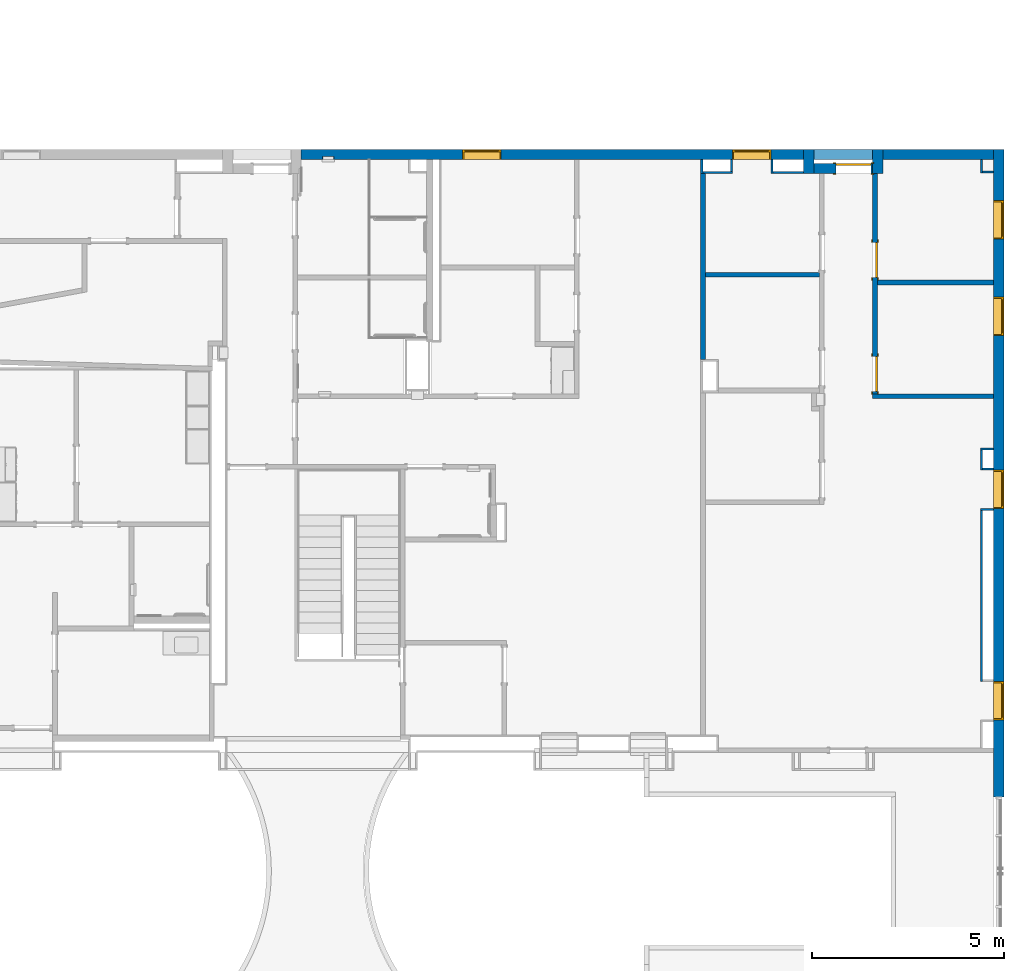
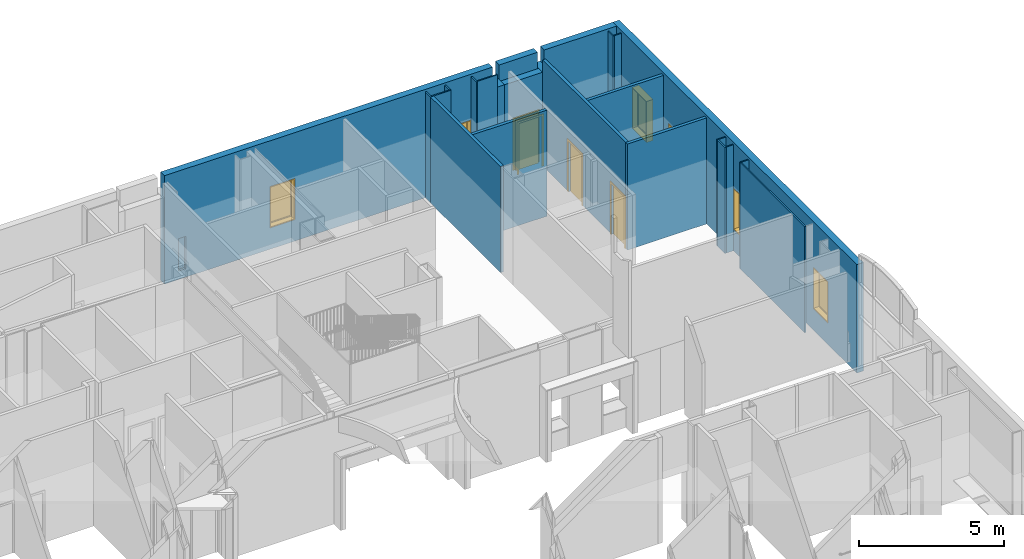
# One storey, part 41 of 82: 24 walls, 6 windows, 3 doors, 10 openings.
"""IFC2X3 building model written with IfcOpenShell, lengths in metres."""

from ifc_helpers import new_model, entity, si_unit, converted_unit, frame, frame_2d, origin, origin_2d_with_axis, place, context, project, spatial, polyline, rectangle, outline, extrude, source, transform, mapped, material, layer, layer_set, layer_usage, type_object, type_shapes, element, fill, save


model = new_model("IFC2X3")

# Units and contexts
model_context = context("Model", 3, precision=1e-09, world=origin())
plan_context = context("Plan", 3, precision=1e-09, world=origin())
ifc_project = project(units=[si_unit("LENGTHUNIT", "METRE"), si_unit("AREAUNIT", "SQUARE_METRE"), si_unit("VOLUMEUNIT", "CUBIC_METRE"), converted_unit("PLANEANGLEUNIT", "DEGREE", entity("IfcRatioMeasure", 0.01745329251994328), si_unit("PLANEANGLEUNIT", "RADIAN"), dimensions=[0, 0, 0, 0, 0, 0, 0]), si_unit("TIMEUNIT", "SECOND")], contexts=[model_context, plan_context])

# Site, building, storey
site_placement = place(None, origin())
site = spatial("IfcSite", under=ifc_project, at=site_placement, Name="Default", CompositionType="ELEMENT")
building_placement = place(site_placement, origin())
building = spatial("IfcBuilding", under=site, at=building_placement, CompositionType="ELEMENT")
storey_placement = place(building_placement, origin())
storey = spatial("IfcBuildingStorey", under=building, at=storey_placement, Name="First Floor", CompositionType="ELEMENT", Elevation=-3.531500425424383e-13)

# Wall, openings, windows
ifc_material_1 = material(Name="Insulation - Insulated Panel")
ifc_layer_1 = layer(ifc_material_1, 0.042)
ifc_material_2 = material(Name="Metal - Firring")
ifc_layer_2 = layer(ifc_material_2, 0.038)
ifc_material_3 = material(Name="Wood - Sheathing - plywood")
ifc_layer_3 = layer(ifc_material_3, 0.019)
ifc_material_4 = material(Name="Metal - Stud Layer")
ifc_layer_4 = layer(ifc_material_4, 0.152)
ifc_material_5 = material(Name="Plasterboard")
ifc_layer_5 = layer(ifc_material_5, 0.016)
ifc_layer_set_1 = layer_set([ifc_layer_1, ifc_layer_2, ifc_layer_3, ifc_layer_4, ifc_layer_5], Name="Basic Wall:Exterior - Insul Panel on Mtl. Stud")
ifc_layer_usage_1 = layer_usage(ifc_layer_set_1, "AXIS2", "NEGATIVE", 0.1335)
wall_1_placement = place(storey_placement, frame((-18.03650000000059, 50.33649999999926, 0.0)))
wall_1 = element("IfcWallStandardCase", 1, at=wall_1_placement, inside=storey, material=ifc_layer_usage_1, Name="Basic Wall:Exterior - Insul Panel on Mtl. Stud", ObjectType="Basic Wall:Exterior - Insul Panel on Mtl. Stud", context=model_context, shape_type="SweptSolid", body=[
    extrude(rectangle(XDim=13.07100000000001, YDim=0.2669999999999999, at=frame_2d((6.669000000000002, 0.0), x_axis=(-1.0, 0.0))), origin(), (0.0, 0.0, 1.0), 4.57000000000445),
])
opening_1_placement = place(wall_1_placement, origin())
element("IfcOpeningElement", 2, at=opening_1_placement, cuts=wall_1, ObjectType="Opening", context=model_context, shape_type="SweptSolid", body=[
    extrude(rectangle(XDim=1.362075, YDim=0.2984499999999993, at=origin_2d_with_axis()), frame((0.8386000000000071, -0.1970000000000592, 1.041399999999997), z_axis=(0.0, 1.0, 0.0), x_axis=(0.0, 0.0, -1.0)), (0.0, 0.0, 1.0), 0.15240000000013),
])
opening_2_placement = place(wall_1_placement, frame((11.35250249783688, -0.1335000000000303, 0.9049999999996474)))
opening_2 = element("IfcOpeningElement", 3, at=opening_2_placement, cuts=wall_1, Name="M_Fixed:1735 x 1000mm:1735 x 1000mm:1", ObjectType="Opening", context=model_context, shape_type="SweptSolid", body=[
    extrude(rectangle(XDim=1.734999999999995, YDim=0.9999999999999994, at=frame_2d((0.8674999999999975, 0.5000000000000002), x_axis=(1.0, 0.0))), frame((0.0, 0.0, 0.0), z_axis=(0.0, 1.0, 0.0), x_axis=(0.0, 0.0, 1.0)), (0.0, 0.0, 1.0), 0.267),
])
opening_3_placement = place(wall_1_placement, frame((4.336499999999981, -0.133500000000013, 0.9049999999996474)))
opening_3 = element("IfcOpeningElement", 4, at=opening_3_placement, cuts=wall_1, Name="M_Fixed:1735 x 1000mm:1735 x 1000mm:1", ObjectType="Opening", context=model_context, shape_type="SweptSolid", body=[
    extrude(rectangle(XDim=1.734999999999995, YDim=0.9999999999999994, at=frame_2d((0.8674999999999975, 0.5000000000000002), x_axis=(1.0, 0.0))), frame((0.0, 0.0, 0.0), z_axis=(0.0, 1.0, 0.0), x_axis=(0.0, 0.0, 1.0)), (0.0, 0.0, 1.0), 0.267),
])
window_style = type_object("IfcWindowStyle", Name="1735 x 1000mm", ConstructionType="NOTDEFINED", OperationType="NOTDEFINED", ParameterTakesPrecedence=False, Sizeable=False)
shared_shape_1 = source(origin(), model_context, "Body", "SweptSolid", [
    extrude(rectangle(XDim=0.012, YDim=0.873999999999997, at=origin_2d_with_axis()), frame((0.5000000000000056, 0.2259999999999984, 0.06299999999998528), z_axis=(0.0, 0.0, 1.0), x_axis=(0.0, -1.0, 0.0)), (0.0, 0.0, 1.0), 1.609000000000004),
    extrude(outline(polyline([(-0.4809999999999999, -0.8485000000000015), (0.4809999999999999, -0.8485000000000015), (0.4809999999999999, 0.8485000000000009), (-0.4809999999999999, 0.8485000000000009), (-0.4809999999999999, -0.8485000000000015)]), holes=[polyline([(-0.4369999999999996, -0.8045000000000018), (-0.4369999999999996, 0.8045000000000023), (0.4369999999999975, 0.8045000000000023), (0.4369999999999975, -0.8045000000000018), (-0.4369999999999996, -0.8045000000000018)])]), frame((0.5000000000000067, 0.203999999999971, 0.8674999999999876), z_axis=(0.0, 1.0, 0.0), x_axis=(1.0, 0.0, 0.0)), (0.0, 0.0, 1.0), 0.04400000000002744),
    extrude(outline(polyline([(-0.4999999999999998, -0.8674999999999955), (0.4999999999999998, -0.8674999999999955), (0.4999999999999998, 0.8674999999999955), (-0.4999999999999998, 0.8674999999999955), (-0.4999999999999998, -0.8674999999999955)]), holes=[polyline([(-0.4810000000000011, -0.8484999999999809), (-0.4810000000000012, 0.8485000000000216), (0.4809999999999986, 0.8485000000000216), (0.4809999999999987, -0.8484999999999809), (-0.4810000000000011, -0.8484999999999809)])]), frame((0.500000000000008, 0.203999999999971, 0.8675000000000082), z_axis=(0.0, 1.0, 0.0), x_axis=(1.0, 0.0, 0.0)), (0.0, 0.0, 1.0), 0.06300000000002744),
    extrude(outline(polyline([(-0.5000000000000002, -0.867499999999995), (0.5000000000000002, -0.867499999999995), (0.5000000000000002, 0.867499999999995), (-0.5000000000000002, 0.867499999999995), (-0.5000000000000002, -0.867499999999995)]), holes=[polyline([(-0.4679999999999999, -0.8354999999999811), (-0.4679999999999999, 0.8355000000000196), (0.4680000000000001, 0.8355000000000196), (0.4680000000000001, -0.8354999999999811), (-0.4679999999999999, -0.8354999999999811)])]), frame((0.5000000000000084, 0.0, 0.8675000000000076), z_axis=(0.0, 1.0, 0.0), x_axis=(1.0, 0.0, 0.0)), (0.0, 0.0, 1.0), 0.2039999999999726),
])
type_shapes(window_style, [shared_shape_1])
window_1_placement = place(opening_2_placement, origin())
window_1 = element("IfcWindow", 5, at=window_1_placement, inside=storey, type_object=window_style, Name="M_Fixed:1735 x 1000mm:1735 x 1000mm", ObjectType="1735 x 1000mm", OverallHeight=1.734999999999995, OverallWidth=1.0, context=model_context, shape_type="MappedRepresentation", body=[
    mapped(shared_shape_1, transform((0.0, 0.0, 0.0), scale=1.0)),
])
fill(opening_2, window_1)
window_2_placement = place(opening_3_placement, origin())
window_2 = element("IfcWindow", 6, at=window_2_placement, inside=storey, type_object=window_style, Name="M_Fixed:1735 x 1000mm:1735 x 1000mm", ObjectType="1735 x 1000mm", OverallHeight=1.734999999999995, OverallWidth=1.0, context=model_context, shape_type="MappedRepresentation", body=[
    mapped(shared_shape_1, transform((0.0, 0.0, 0.0), scale=1.0)),
])
fill(opening_3, window_2)

wall_2_placement = place(storey_placement, frame((0.2464999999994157, 50.46999999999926, 0.0), z_axis=(0.0, 0.0, 1.0), x_axis=(0.0, -1.0, 0.0)))
wall_2 = element("IfcWallStandardCase", 7, at=wall_2_placement, inside=storey, material=ifc_layer_usage_1, Name="Basic Wall:Exterior - Insul Panel on Mtl. Stud", ObjectType="Basic Wall:Exterior - Insul Panel on Mtl. Stud", context=model_context, shape_type="SweptSolid", body=[
    extrude(rectangle(XDim=16.84000000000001, YDim=0.267, at=frame_2d((8.420000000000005, 0.0), x_axis=(-1.0, 0.0))), origin(), (0.0, 0.0, 1.0), 4.57000000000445),
])
opening_4_placement = place(wall_2_placement, frame((13.84008814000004, -0.1335000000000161, 0.9049999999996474)))
opening_4 = element("IfcOpeningElement", 8, at=opening_4_placement, cuts=wall_2, Name="M_Fixed:1735 x 1000mm:1735 x 1000mm:1", ObjectType="Opening", context=model_context, shape_type="SweptSolid", body=[
    extrude(rectangle(XDim=1.734999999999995, YDim=0.9999999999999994, at=frame_2d((0.8674999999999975, 0.5000000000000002), x_axis=(1.0, 0.0))), frame((0.0, 0.0, 0.0), z_axis=(0.0, 1.0, 0.0), x_axis=(0.0, 0.0, 1.0)), (0.0, 0.0, 1.0), 0.267),
])
opening_5_placement = place(wall_2_placement, frame((8.34008813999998, -0.1335000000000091, 0.9049999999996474)))
opening_5 = element("IfcOpeningElement", 9, at=opening_5_placement, cuts=wall_2, Name="M_Fixed:1735 x 1000mm:1735 x 1000mm:1", ObjectType="Opening", context=model_context, shape_type="SweptSolid", body=[
    extrude(rectangle(XDim=1.734999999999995, YDim=0.9999999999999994, at=frame_2d((0.8674999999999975, 0.5000000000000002), x_axis=(1.0, 0.0))), frame((0.0, 0.0, 0.0), z_axis=(0.0, 1.0, 0.0), x_axis=(0.0, 0.0, 1.0)), (0.0, 0.0, 1.0), 0.267),
])
opening_6_placement = place(wall_2_placement, frame((3.84, -0.1335000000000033, 0.9049999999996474)))
opening_6 = element("IfcOpeningElement", 10, at=opening_6_placement, cuts=wall_2, Name="M_Fixed:1735 x 1000mm:1735 x 1000mm:1", ObjectType="Opening", context=model_context, shape_type="SweptSolid", body=[
    extrude(rectangle(XDim=1.734999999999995, YDim=0.9999999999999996, at=frame_2d((0.8674999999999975, 0.4999999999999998), x_axis=(1.0, 0.0))), frame((0.0, 0.0, 0.0), z_axis=(0.0, 1.0, 0.0), x_axis=(0.0, 0.0, 1.0)), (0.0, 0.0, 1.0), 0.267),
])
opening_7_placement = place(wall_2_placement, frame((1.331500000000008, -0.1335000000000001, 0.9049999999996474)))
opening_7 = element("IfcOpeningElement", 11, at=opening_7_placement, cuts=wall_2, Name="M_Fixed:1735 x 1000mm:1735 x 1000mm:1", ObjectType="Opening", context=model_context, shape_type="SweptSolid", body=[
    extrude(rectangle(XDim=1.734999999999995, YDim=0.9999999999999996, at=frame_2d((0.8674999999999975, 0.4999999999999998), x_axis=(1.0, 0.0))), frame((0.0, 0.0, 0.0), z_axis=(0.0, 1.0, 0.0), x_axis=(0.0, 0.0, 1.0)), (0.0, 0.0, 1.0), 0.267),
])
window_3_placement = place(opening_7_placement, origin())
window_3 = element("IfcWindow", 12, at=window_3_placement, inside=storey, type_object=window_style, Name="M_Fixed:1735 x 1000mm:1735 x 1000mm", ObjectType="1735 x 1000mm", OverallHeight=1.734999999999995, OverallWidth=0.9999999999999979, context=model_context, shape_type="MappedRepresentation", body=[
    mapped(shared_shape_1, transform((0.0, 0.0, 0.0), scale=1.0)),
])
fill(opening_7, window_3)
window_4_placement = place(opening_5_placement, origin())
window_4 = element("IfcWindow", 13, at=window_4_placement, inside=storey, type_object=window_style, Name="M_Fixed:1735 x 1000mm:1735 x 1000mm", ObjectType="1735 x 1000mm", OverallHeight=1.734999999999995, OverallWidth=0.9999999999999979, context=model_context, shape_type="MappedRepresentation", body=[
    mapped(shared_shape_1, transform((0.0, 0.0, 0.0), scale=1.0)),
])
fill(opening_5, window_4)
window_5_placement = place(opening_6_placement, origin())
window_5 = element("IfcWindow", 14, at=window_5_placement, inside=storey, type_object=window_style, Name="M_Fixed:1735 x 1000mm:1735 x 1000mm", ObjectType="1735 x 1000mm", OverallHeight=1.734999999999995, OverallWidth=0.9999999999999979, context=model_context, shape_type="MappedRepresentation", body=[
    mapped(shared_shape_1, transform((0.0, 0.0, 0.0), scale=1.0)),
])
fill(opening_6, window_5)
window_6_placement = place(opening_4_placement, origin())
window_6 = element("IfcWindow", 15, at=window_6_placement, inside=storey, type_object=window_style, Name="M_Fixed:1735 x 1000mm:1735 x 1000mm", ObjectType="1735 x 1000mm", OverallHeight=1.734999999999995, OverallWidth=0.9999999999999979, context=model_context, shape_type="MappedRepresentation", body=[
    mapped(shared_shape_1, transform((0.0, 0.0, 0.0), scale=1.0)),
])
fill(opening_4, window_6)

# Wall, opening, door
wall_3_placement = place(storey_placement, frame((-4.565000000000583, 49.97649999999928, 0.0)))
wall_3 = element("IfcWallStandardCase", 16, at=wall_3_placement, inside=storey, material=ifc_layer_usage_1, Name="Basic Wall:Exterior - Insul Panel on Mtl. Stud", ObjectType="Basic Wall:Exterior - Insul Panel on Mtl. Stud", context=model_context, shape_type="SweptSolid", body=[
    extrude(rectangle(XDim=1.525000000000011, YDim=0.2670000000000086, at=frame_2d((0.7625000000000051, 0.0), x_axis=(-1.0, 0.0))), origin(), (0.0, 0.0, 1.0), 3.949500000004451),
])
opening_8_placement = place(wall_3_placement, frame((0.5700000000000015, -0.1335000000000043, 0.0)))
opening_8 = element("IfcOpeningElement", 17, at=opening_8_placement, cuts=wall_3, Name="M_Single-Flush:0915 x 2134mm Exterior:0915 x 2134mm Exterior:1", ObjectType="Opening", context=model_context, shape_type="SweptSolid", body=[
    extrude(rectangle(XDim=0.9149999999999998, YDim=2.134, at=frame_2d((1.067, 0.4575), x_axis=(0.0, 1.0))), frame((0.0, 0.0, 0.0), z_axis=(0.0, 1.0, 0.0), x_axis=(0.0, 0.0, 1.0)), (0.0, 0.0, 1.0), 0.267),
])
door_style_1 = type_object("IfcDoorStyle", Name="0915 x 2134mm Exterior", ConstructionType="NOTDEFINED", OperationType="SINGLE_SWING_RIGHT", ParameterTakesPrecedence=False, Sizeable=False)
shared_shape_2 = source(origin(), model_context, "Body", "SweptSolid", [
    extrude(outline(polyline([(-0.5335, -1.123999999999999), (0.5334999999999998, -1.123999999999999), (0.5334999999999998, 1.086), (0.4574999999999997, 1.086), (0.4574999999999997, -1.048000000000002), (-0.4574999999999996, -1.048000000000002), (-0.4574999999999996, 1.086), (-0.5335, 1.086), (-0.5335, -1.123999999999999)])), frame((0.4575000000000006, 0.2669999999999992, 1.086), z_axis=(0.0, 1.0, 0.0), x_axis=(1.0, 0.0, 0.0)), (0.0, 0.0, 1.0), 0.02499999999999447),
    extrude(outline(polyline([(-1.123999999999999, -0.5334999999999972), (1.085999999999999, -0.5334999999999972), (1.085999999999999, -0.4575000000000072), (-1.048, -0.4575000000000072), (-1.048, 0.4575000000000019), (1.085999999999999, 0.4575000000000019), (1.085999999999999, 0.5335000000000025), (-1.123999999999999, 0.5335000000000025), (-1.123999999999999, -0.5334999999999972)])), frame((0.4575000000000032, -0.02500000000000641, 1.085999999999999), z_axis=(0.0, 1.0, 0.0), x_axis=(0.0, 0.0, -1.0)), (0.0, 0.0, 1.0), 0.0250000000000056),
    extrude(rectangle(XDim=0.051, YDim=0.9149999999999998, at=origin_2d_with_axis()), frame((0.4575000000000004, 0.2414999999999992, 0.0), z_axis=(0.0, 0.0, 1.0), x_axis=(0.0, 1.0, 0.0)), (0.0, 0.0, 1.0), 2.133999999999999),
])
type_shapes(door_style_1, [shared_shape_2])
door_1_placement = place(opening_8_placement, origin())
door_1 = element("IfcDoor", 18, at=door_1_placement, inside=storey, type_object=door_style_1, Name="M_Single-Flush:0915 x 2134mm Exterior:0915 x 2134mm Exterior", ObjectType="0915 x 2134mm Exterior", OverallHeight=2.134, OverallWidth=0.9150000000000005, context=model_context, shape_type="MappedRepresentation", body=[
    mapped(shared_shape_2, transform((0.0, 0.0, 0.0), scale=1.0)),
])
fill(opening_8, door_1)

# Wall, openings, doors
ifc_layer_6 = layer(ifc_material_5, 0.016)
ifc_layer_7 = layer(ifc_material_4, 0.092)
ifc_layer_8 = layer(ifc_material_5, 0.016)
ifc_layer_set_2 = layer_set([ifc_layer_6, ifc_layer_7, ifc_layer_8], Name="Basic Wall:Interior - Partition (92mm Stud)")
ifc_layer_usage_2 = layer_usage(ifc_layer_set_2, "AXIS2", "NEGATIVE", 0.062)
wall_4_placement = place(storey_placement, frame((-2.978000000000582, 44.11399999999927, 0.0), z_axis=(0.0, 0.0, 1.0), x_axis=(0.0, 1.0, 0.0)))
wall_4 = element("IfcWallStandardCase", 19, at=wall_4_placement, inside=storey, material=ifc_layer_usage_2, Name="Basic Wall:Interior - Partition (92mm Stud)", ObjectType="Basic Wall:Interior - Partition (92mm Stud)", context=model_context, shape_type="SweptSolid", body=[
    extrude(rectangle(XDim=5.729000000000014, YDim=0.124, at=frame_2d((2.864500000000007, 0.0), x_axis=(-1.0, 0.0))), origin(), (0.0, 0.0, 1.0), 4.46800000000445),
])
opening_9_placement = place(wall_4_placement, frame((3.934999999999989, 0.06199999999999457, 0.0)))
opening_9 = element("IfcOpeningElement", 20, at=opening_9_placement, cuts=wall_4, Name="M_Single-Flush:0915 x 2134mm:0915 x 2134mm:1", ObjectType="Opening", context=model_context, shape_type="SweptSolid", body=[
    extrude(rectangle(XDim=0.9149999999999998, YDim=2.134, at=frame_2d((1.067, 0.4575), x_axis=(0.0, 1.0))), frame((0.0, 0.0, 0.0), z_axis=(0.0, -1.0, 0.0), x_axis=(0.0, 0.0, 1.0)), (0.0, 0.0, 1.0), 0.124),
])
opening_10_placement = place(wall_4_placement, frame((0.974999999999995, 0.06199999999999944, 0.0)))
opening_10 = element("IfcOpeningElement", 21, at=opening_10_placement, cuts=wall_4, Name="M_Single-Flush:0915 x 2134mm:0915 x 2134mm:1", ObjectType="Opening", context=model_context, shape_type="SweptSolid", body=[
    extrude(rectangle(XDim=0.9149999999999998, YDim=2.134, at=frame_2d((1.067, 0.4575), x_axis=(0.0, 1.0))), frame((0.0, 0.0, 0.0), z_axis=(0.0, -1.0, 0.0), x_axis=(0.0, 0.0, 1.0)), (0.0, 0.0, 1.0), 0.124),
])
door_style_2 = type_object("IfcDoorStyle", Name="0915 x 2134mm", ConstructionType="NOTDEFINED", OperationType="SINGLE_SWING_RIGHT", ParameterTakesPrecedence=False, Sizeable=False)
shared_shape_3 = source(origin(), model_context, "Body", "SweptSolid", [
    extrude(outline(polyline([(-0.5335, -1.123999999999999), (0.5334999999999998, -1.123999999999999), (0.5334999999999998, 1.086), (0.4574999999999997, 1.086), (0.4574999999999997, -1.048000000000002), (-0.4574999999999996, -1.048000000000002), (-0.4574999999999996, 1.086), (-0.5335, 1.086), (-0.5335, -1.123999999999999)])), frame((0.4575000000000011, 0.1239999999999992, 1.086), z_axis=(0.0, 1.0, 0.0), x_axis=(1.0, 0.0, 0.0)), (0.0, 0.0, 1.0), 0.02499999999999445),
    extrude(outline(polyline([(-1.123999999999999, -0.5334999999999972), (1.085999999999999, -0.5334999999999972), (1.085999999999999, -0.4575000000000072), (-1.048, -0.4575000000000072), (-1.048, 0.4575000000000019), (1.085999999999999, 0.4575000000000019), (1.085999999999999, 0.5335000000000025), (-1.123999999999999, 0.5335000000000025), (-1.123999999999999, -0.5334999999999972)])), frame((0.4575000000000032, -0.02500000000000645, 1.085999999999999), z_axis=(0.0, 1.0, 0.0), x_axis=(0.0, 0.0, -1.0)), (0.0, 0.0, 1.0), 0.02500000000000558),
    extrude(rectangle(XDim=0.051, YDim=0.9149999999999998, at=origin_2d_with_axis()), frame((0.4575000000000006, 0.09849999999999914, 0.0), z_axis=(0.0, 0.0, 1.0), x_axis=(0.0, 1.0, 0.0)), (0.0, 0.0, 1.0), 2.133999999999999),
])
type_shapes(door_style_2, [shared_shape_3])
door_2_placement = place(opening_10_placement, frame((0.0, 0.0, 0.0), z_axis=(0.0, 0.0, 1.0), x_axis=(-1.0, 0.0, 0.0)))
door_2 = element("IfcDoor", 22, at=door_2_placement, inside=storey, type_object=door_style_2, Name="M_Single-Flush:0915 x 2134mm:0915 x 2134mm", ObjectType="0915 x 2134mm", OverallHeight=2.134, OverallWidth=0.9149999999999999, context=model_context, shape_type="MappedRepresentation", body=[
    mapped(shared_shape_3, transform((0.0, 0.0, 0.0), scale=1.0)),
])
fill(opening_10, door_2)
door_3_placement = place(opening_9_placement, frame((0.0, 0.0, 0.0), z_axis=(0.0, 0.0, 1.0), x_axis=(-1.0, 0.0, 0.0)))
door_3 = element("IfcDoor", 23, at=door_3_placement, inside=storey, type_object=door_style_2, Name="M_Single-Flush:0915 x 2134mm:0915 x 2134mm", ObjectType="0915 x 2134mm", OverallHeight=2.134, OverallWidth=0.9149999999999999, context=model_context, shape_type="MappedRepresentation", body=[
    mapped(shared_shape_3, transform((0.0, 0.0, 0.0), scale=1.0)),
])
fill(opening_9, door_3)

# Walls
wall_5_placement = place(storey_placement, frame((-7.448000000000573, 45.00999999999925, 0.0), z_axis=(0.0, 0.0, 1.0), x_axis=(0.0, 1.0, 0.0)))
element("IfcWallStandardCase", 24, at=wall_5_placement, inside=storey, material=ifc_layer_usage_2, Name="Basic Wall:Interior - Partition (92mm Stud)", ObjectType="Basic Wall:Interior - Partition (92mm Stud)", context=model_context, shape_type="SweptSolid", body=[
    extrude(rectangle(XDim=4.833000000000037, YDim=0.124, at=frame_2d((2.416500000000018, 0.0), x_axis=(-1.0, 0.0))), origin(), (0.0, 0.0, 1.0), 4.46800000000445),
])
wall_6_placement = place(storey_placement, frame((-4.698500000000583, 50.33649999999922, 3.0)))
element("IfcWallStandardCase", 25, at=wall_6_placement, inside=storey, material=ifc_layer_usage_1, Name="Basic Wall:Exterior - Insul Panel on Mtl. Stud", ObjectType="Basic Wall:Exterior - Insul Panel on Mtl. Stud", context=model_context, shape_type="SweptSolid", body=[
    extrude(rectangle(XDim=1.525000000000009, YDim=0.2669999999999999, at=frame_2d((0.8960000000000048, 0.0), x_axis=(-1.0, 0.0))), origin(), (0.0, 0.0, 1.0), 1.570000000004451),
])
wall_7_placement = place(storey_placement, frame((-2.906500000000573, 50.33649999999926, 0.0)))
element("IfcWallStandardCase", 26, at=wall_7_placement, inside=storey, material=ifc_layer_usage_1, Name="Basic Wall:Exterior - Insul Panel on Mtl. Stud", ObjectType="Basic Wall:Exterior - Insul Panel on Mtl. Stud", context=model_context, shape_type="SweptSolid", body=[
    extrude(rectangle(XDim=2.88599999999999, YDim=0.267, at=frame_2d((1.576499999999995, 0.0), x_axis=(-1.0, 0.0))), origin(), (0.0, 0.0, 1.0), 4.57000000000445),
])
ifc_layer_9 = layer(ifc_material_4, 0.038)
ifc_layer_10 = layer(ifc_material_5, 0.016)
ifc_layer_set_3 = layer_set([ifc_layer_9, ifc_layer_10], Name="Basic Wall:Interior - Furring (38 mm Stud)")
ifc_layer_usage_3 = layer_usage(ifc_layer_set_3, "AXIS2", "NEGATIVE", 0.027)
wall_8_placement = place(storey_placement, frame((-5.629997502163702, 49.86999999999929, 0.0)))
element("IfcWallStandardCase", 27, at=wall_8_placement, inside=storey, material=ifc_layer_usage_3, Name="Basic Wall:Interior - Furring (38 mm Stud)", ObjectType="Basic Wall:Interior - Furring (38 mm Stud)", context=model_context, shape_type="SweptSolid", body=[
    extrude(rectangle(XDim=0.7979975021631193, YDim=0.05400000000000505, at=frame_2d((0.3989987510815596, 0.0), x_axis=(-1.0, 0.0))), origin(), (0.0, 0.0, 1.0), 4.46800000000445),
])
wall_9_placement = place(storey_placement, frame((-4.698500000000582, 50.46999999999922, 0.0), z_axis=(0.0, 0.0, 1.0), x_axis=(0.0, -1.0, 0.0)))
element("IfcWallStandardCase", 28, at=wall_9_placement, inside=storey, material=ifc_layer_usage_1, Name="Basic Wall:Exterior - Insul Panel on Mtl. Stud", ObjectType="Basic Wall:Exterior - Insul Panel on Mtl. Stud", context=model_context, shape_type="SweptSolid", body=[
    extrude(rectangle(XDim=0.6269999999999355, YDim=0.267, at=frame_2d((0.3134999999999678, 0.0), x_axis=(-1.0, 0.0))), origin(), (0.0, 0.0, 1.0), 3.949500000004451),
])
wall_10_placement = place(storey_placement, frame((-2.906500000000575, 49.84299999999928, 0.0), z_axis=(0.0, 0.0, 1.0), x_axis=(0.0, 1.0, 0.0)))
element("IfcWallStandardCase", 29, at=wall_10_placement, inside=storey, material=ifc_layer_usage_1, Name="Basic Wall:Exterior - Insul Panel on Mtl. Stud", ObjectType="Basic Wall:Exterior - Insul Panel on Mtl. Stud", context=model_context, shape_type="SweptSolid", body=[
    extrude(rectangle(XDim=0.6269999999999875, YDim=0.267, at=frame_2d((0.3134999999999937, 0.0), x_axis=(-1.0, 0.0))), origin(), (0.0, 0.0, 1.0), 3.949500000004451),
])
wall_11_placement = place(storey_placement, frame((0.1129999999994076, 44.05199999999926, 0.0), z_axis=(0.0, 0.0, 1.0), x_axis=(-1.0, 0.0, 0.0)))
element("IfcWallStandardCase", 30, at=wall_11_placement, inside=storey, material=ifc_layer_usage_2, Name="Basic Wall:Interior - Partition (92mm Stud)", ObjectType="Basic Wall:Interior - Partition (92mm Stud)", context=model_context, shape_type="SweptSolid", body=[
    extrude(rectangle(XDim=3.15299999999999, YDim=0.1240000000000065, at=frame_2d((1.576499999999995, 0.0), x_axis=(-1.0, 0.0))), origin(), (0.0, 0.0, 1.0), 4.46800000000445),
])
wall_12_placement = place(storey_placement, frame((-7.483000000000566, 50.20299999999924, 0.0), z_axis=(0.0, 0.0, 1.0), x_axis=(0.0, -1.0, 0.0)))
element("IfcWallStandardCase", 31, at=wall_12_placement, inside=storey, material=ifc_layer_usage_3, Name="Basic Wall:Interior - Furring (38 mm Stud)", ObjectType="Basic Wall:Interior - Furring (38 mm Stud)", context=model_context, shape_type="SweptSolid", body=[
    extrude(rectangle(XDim=0.3599999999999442, YDim=0.05400000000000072, at=frame_2d((0.1799999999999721, 0.0), x_axis=(-1.0, 0.0))), origin(), (0.0, 0.0, 1.0), 4.46800000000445),
])
wall_13_placement = place(storey_placement, frame((-4.424000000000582, 47.21199999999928, 0.0), z_axis=(0.0, 0.0, 1.0), x_axis=(-1.0, 0.0, 0.0)))
element("IfcWallStandardCase", 32, at=wall_13_placement, inside=storey, material=ifc_layer_usage_2, Name="Basic Wall:Interior - Partition (92mm Stud)", ObjectType="Basic Wall:Interior - Partition (92mm Stud)", context=model_context, shape_type="SweptSolid", body=[
    extrude(rectangle(XDim=2.961999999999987, YDim=0.1240000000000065, at=frame_2d((1.480999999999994, 0.0), x_axis=(-1.0, 0.0))), origin(), (0.0, 0.0, 1.0), 4.46800000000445),
])
wall_14_placement = place(storey_placement, frame((0.1129999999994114, 47.01199999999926, 0.0), z_axis=(0.0, 0.0, 1.0), x_axis=(-1.0, 0.0, 0.0)))
element("IfcWallStandardCase", 33, at=wall_14_placement, inside=storey, material=ifc_layer_usage_2, Name="Basic Wall:Interior - Partition (92mm Stud)", ObjectType="Basic Wall:Interior - Partition (92mm Stud)", context=model_context, shape_type="SweptSolid", body=[
    extrude(rectangle(XDim=3.028999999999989, YDim=0.1240000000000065, at=frame_2d((1.514499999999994, 0.0), x_axis=(-1.0, 0.0))), origin(), (0.0, 0.0, 1.0), 4.46800000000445),
])
wall_15_placement = place(storey_placement, frame((-7.456000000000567, 49.86999999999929, 0.0)))
element("IfcWallStandardCase", 34, at=wall_15_placement, inside=storey, material=ifc_layer_usage_3, Name="Basic Wall:Interior - Furring (38 mm Stud)", ObjectType="Basic Wall:Interior - Furring (38 mm Stud)", context=model_context, shape_type="SweptSolid", body=[
    extrude(rectangle(XDim=0.7720024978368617, YDim=0.05400000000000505, at=frame_2d((0.3860012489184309, 0.0), x_axis=(-1.0, 0.0))), origin(), (0.0, 0.0, 1.0), 4.46800000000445),
])
wall_16_placement = place(storey_placement, frame((-5.656997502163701, 50.20299999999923, 0.0), z_axis=(0.0, 0.0, 1.0), x_axis=(0.0, -1.0, 0.0)))
element("IfcWallStandardCase", 35, at=wall_16_placement, inside=storey, material=ifc_layer_usage_3, Name="Basic Wall:Interior - Furring (38 mm Stud)", ObjectType="Basic Wall:Interior - Furring (38 mm Stud)", context=model_context, shape_type="SweptSolid", body=[
    extrude(rectangle(XDim=0.3599999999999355, YDim=0.05400000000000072, at=frame_2d((0.1799999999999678, 0.0), x_axis=(-1.0, 0.0))), origin(), (0.0, 0.0, 1.0), 4.46800000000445),
])
wall_17_placement = place(storey_placement, frame((-6.710997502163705, 49.89699999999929, 0.0), z_axis=(0.0, 0.0, 1.0), x_axis=(0.0, 1.0, 0.0)))
element("IfcWallStandardCase", 36, at=wall_17_placement, inside=storey, material=ifc_layer_usage_3, Name="Basic Wall:Interior - Furring (38 mm Stud)", ObjectType="Basic Wall:Interior - Furring (38 mm Stud)", context=model_context, shape_type="SweptSolid", body=[
    extrude(rectangle(XDim=0.3059999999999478, YDim=0.05400000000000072, at=frame_2d((0.1529999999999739, 0.0), x_axis=(-1.0, 0.0))), origin(), (0.0, 0.0, 1.0), 4.46800000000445),
])
wall_18_placement = place(storey_placement, frame((-0.2030000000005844, 50.20299999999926, 0.0), z_axis=(0.0, 0.0, 1.0), x_axis=(0.0, -1.0, 0.0)))
element("IfcWallStandardCase", 37, at=wall_18_placement, inside=storey, material=ifc_layer_usage_3, Name="Basic Wall:Interior - Furring (38 mm Stud)", ObjectType="Basic Wall:Interior - Furring (38 mm Stud)", context=model_context, shape_type="SweptSolid", body=[
    extrude(rectangle(XDim=0.3429999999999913, YDim=0.05400000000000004, at=frame_2d((0.1714999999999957, 0.0), x_axis=(-1.0, 0.0))), origin(), (0.0, 0.0, 1.0), 4.46800000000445),
])
wall_19_placement = place(storey_placement, frame((-0.1760000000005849, 49.88699999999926, 0.0)))
element("IfcWallStandardCase", 38, at=wall_19_placement, inside=storey, material=ifc_layer_usage_3, Name="Basic Wall:Interior - Furring (38 mm Stud)", ObjectType="Basic Wall:Interior - Furring (38 mm Stud)", context=model_context, shape_type="SweptSolid", body=[
    extrude(rectangle(XDim=0.2889999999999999, YDim=0.05400000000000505, at=frame_2d((0.1444999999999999, 0.0), x_axis=(-1.0, 0.0))), origin(), (0.0, 0.0, 1.0), 4.46800000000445),
])
wall_20_placement = place(storey_placement, frame((0.1129999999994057, 42.67970225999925, 0.0), z_axis=(0.0, 0.0, 1.0), x_axis=(-1.0, 0.0, 0.0)))
element("IfcWallStandardCase", 39, at=wall_20_placement, inside=storey, material=ifc_layer_usage_3, Name="Basic Wall:Interior - Furring (38 mm Stud)", ObjectType="Basic Wall:Interior - Furring (38 mm Stud)", context=model_context, shape_type="SweptSolid", body=[
    extrude(rectangle(XDim=0.3429999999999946, YDim=0.05400000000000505, at=frame_2d((0.1714999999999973, 0.0), x_axis=(-1.0, 0.0))), origin(), (0.0, 0.0, 1.0), 4.46800000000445),
])
wall_21_placement = place(storey_placement, frame((-0.2030000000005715, 41.07591185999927, 0.0), z_axis=(0.0, 0.0, 1.0), x_axis=(0.0, -1.0, 0.0)))
element("IfcWallStandardCase", 40, at=wall_21_placement, inside=storey, material=ifc_layer_usage_3, Name="Basic Wall:Interior - Furring (38 mm Stud)", ObjectType="Basic Wall:Interior - Furring (38 mm Stud)", context=model_context, shape_type="SweptSolid", body=[
    extrude(rectangle(XDim=4.446000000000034, YDim=0.05400000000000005, at=frame_2d((2.223000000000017, 0.0), x_axis=(-1.0, 0.0))), origin(), (0.0, 0.0, 1.0), 4.46800000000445),
])
wall_22_placement = place(storey_placement, frame((-0.1760000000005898, 42.15691185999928, 0.0)))
element("IfcWallStandardCase", 41, at=wall_22_placement, inside=storey, material=ifc_layer_usage_3, Name="Basic Wall:Interior - Furring (38 mm Stud)", ObjectType="Basic Wall:Interior - Furring (38 mm Stud)", context=model_context, shape_type="SweptSolid", body=[
    extrude(rectangle(XDim=0.2889999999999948, YDim=0.05400000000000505, at=frame_2d((0.1444999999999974, 0.0), x_axis=(-1.0, 0.0))), origin(), (0.0, 0.0, 1.0), 4.46800000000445),
])
wall_23_placement = place(storey_placement, frame((0.1129999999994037, 41.10291185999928, 0.0), z_axis=(0.0, 0.0, 1.0), x_axis=(-1.0, 0.0, 0.0)))
element("IfcWallStandardCase", 42, at=wall_23_placement, inside=storey, material=ifc_layer_usage_3, Name="Basic Wall:Interior - Furring (38 mm Stud)", ObjectType="Basic Wall:Interior - Furring (38 mm Stud)", context=model_context, shape_type="SweptSolid", body=[
    extrude(rectangle(XDim=0.3429999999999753, YDim=0.05400000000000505, at=frame_2d((0.1714999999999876, 0.0), x_axis=(-1.0, 0.0))), origin(), (0.0, 0.0, 1.0), 4.46800000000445),
])
wall_24_placement = place(storey_placement, frame((-0.2030000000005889, 42.65270225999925, 0.0), z_axis=(0.0, 0.0, 1.0), x_axis=(0.0, -1.0, 0.0)))
element("IfcWallStandardCase", 43, at=wall_24_placement, inside=storey, material=ifc_layer_usage_3, Name="Basic Wall:Interior - Furring (38 mm Stud)", ObjectType="Basic Wall:Interior - Furring (38 mm Stud)", context=model_context, shape_type="SweptSolid", body=[
    extrude(rectangle(XDim=0.5227903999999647, YDim=0.05400000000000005, at=frame_2d((0.2613951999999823, 0.0), x_axis=(-1.0, 0.0))), origin(), (0.0, 0.0, 1.0), 4.46800000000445),
])

save(model, "model.ifc")
